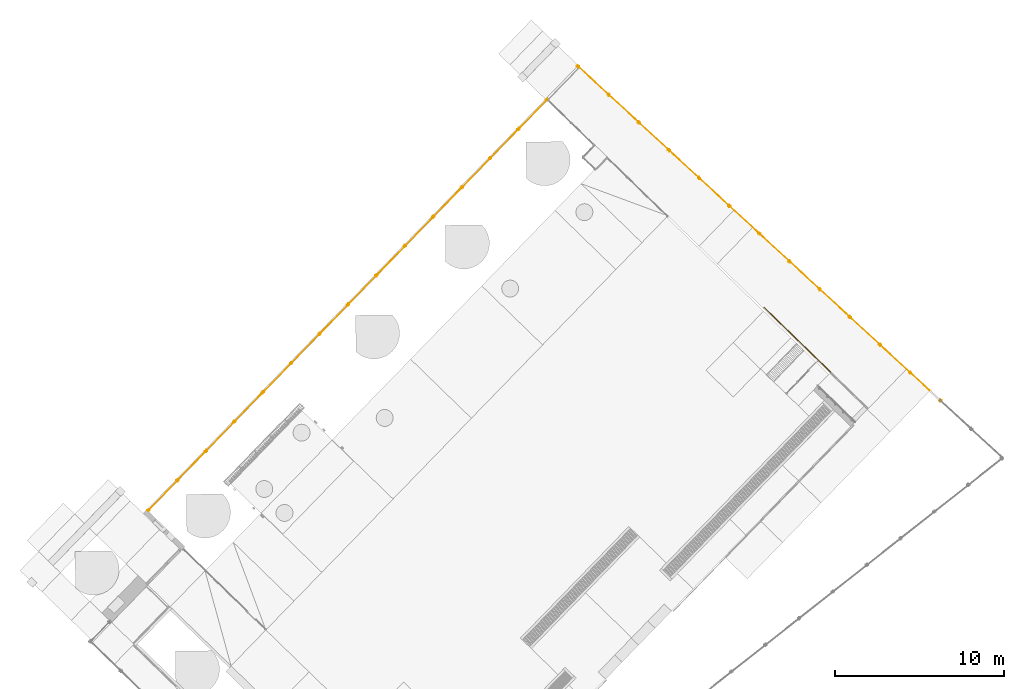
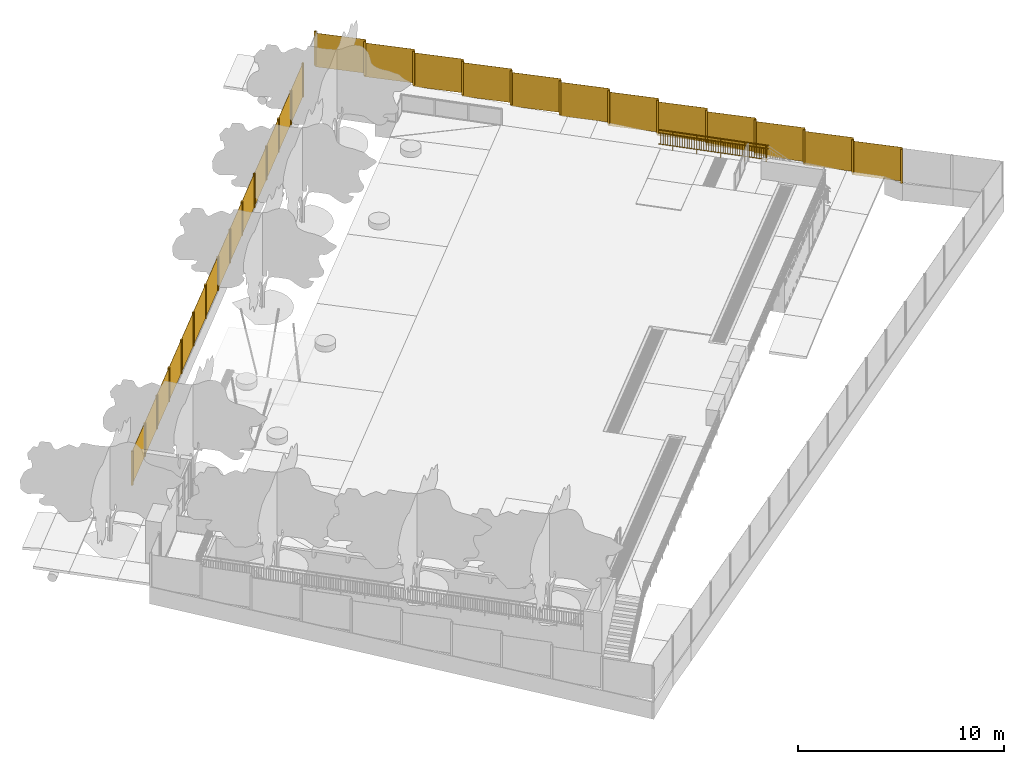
# One storey, part 28 of 37: 3 railings.
"""IFC2X3 building model written with IfcOpenShell, lengths in centimetres."""

from ifc_helpers import new_model, entity, si_unit, converted_unit, derived_unit, direction, frame, frame_2d, origin, origin_2d_with_axis, place, context, subcontext, project, spatial, rectangle, circle, extrude, material, material_list, element, save


model = new_model("IFC2X3")

# Units and contexts
model_context = context("Model", 3, precision=0.001, world=origin(), true_north=direction((0.717475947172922, 0.696583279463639)))
body_context = subcontext(model_context, "Body", "Model", "MODEL_VIEW")
ifc_project = project(units=[si_unit("LENGTHUNIT", "METRE", prefix="CENTI"), si_unit("AREAUNIT", "SQUARE_METRE"), si_unit("VOLUMEUNIT", "CUBIC_METRE"), converted_unit("PLANEANGLEUNIT", "DEGREE", entity("IfcRatioMeasure", 0.0174532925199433), si_unit("PLANEANGLEUNIT", "RADIAN"), dimensions=[0, 0, 0, 0, 0, 0, 0]), si_unit("MASSUNIT", "GRAM", prefix="KILO"), derived_unit("MASSDENSITYUNIT", [(si_unit("MASSUNIT", "GRAM", prefix="KILO"), 1), (si_unit("LENGTHUNIT", "METRE"), -3)]), si_unit("TIMEUNIT", "SECOND"), si_unit("FREQUENCYUNIT", "HERTZ"), si_unit("THERMODYNAMICTEMPERATUREUNIT", "DEGREE_CELSIUS"), derived_unit("THERMALTRANSMITTANCEUNIT", [(si_unit("MASSUNIT", "GRAM", prefix="KILO"), 1), (si_unit("THERMODYNAMICTEMPERATUREUNIT", "KELVIN"), -1), (si_unit("TIMEUNIT", "SECOND"), -3)]), derived_unit("VOLUMETRICFLOWRATEUNIT", [(si_unit("LENGTHUNIT", "METRE"), 3), (si_unit("TIMEUNIT", "SECOND"), -1)]), si_unit("ELECTRICCURRENTUNIT", "AMPERE"), si_unit("ELECTRICVOLTAGEUNIT", "VOLT"), si_unit("POWERUNIT", "WATT"), si_unit("FORCEUNIT", "NEWTON", prefix="KILO"), si_unit("ILLUMINANCEUNIT", "LUX"), si_unit("LUMINOUSFLUXUNIT", "LUMEN"), si_unit("LUMINOUSINTENSITYUNIT", "CANDELA"), derived_unit("USERDEFINED", [(si_unit("MASSUNIT", "GRAM", prefix="KILO"), -1), (si_unit("LENGTHUNIT", "METRE"), -2), (si_unit("TIMEUNIT", "SECOND"), 3), (si_unit("LUMINOUSFLUXUNIT", "LUMEN"), 1)]), derived_unit("LINEARVELOCITYUNIT", [(si_unit("LENGTHUNIT", "METRE"), 1), (si_unit("TIMEUNIT", "SECOND"), -1)]), si_unit("PRESSUREUNIT", "PASCAL"), derived_unit("USERDEFINED", [(si_unit("LENGTHUNIT", "METRE"), -2), (si_unit("MASSUNIT", "GRAM", prefix="KILO"), 1), (si_unit("TIMEUNIT", "SECOND"), -2)])], contexts=[model_context])

# Site, building, storey
site_placement = place(None, frame((0.0, 0.0, 0.0), z_axis=(0.0, 0.0, 1.0), x_axis=(0.696583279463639, 0.717475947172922, 0.0)))
site = spatial("IfcSite", under=ifc_project, at=site_placement, Name="Surface", CompositionType="ELEMENT")
building_placement = place(site_placement, origin())
building = spatial("IfcBuilding", under=site, at=building_placement, CompositionType="ELEMENT")
storey_placement = place(building_placement, origin())
storey = spatial("IfcBuildingStorey", under=building, at=storey_placement, Name="Nivel 0.00", CompositionType="ELEMENT", Elevation=0.0)

# Railings
ifc_material_1 = material(Name="Aluminum")
railing_1_placement = place(storey_placement, origin())
element("IfcRailing", 1, at=railing_1_placement, inside=storey, material=ifc_material_1, Name="Railing:BARANDA_RAMPA_1000mm", ObjectType="Railing:BARANDA_RAMPA_1000mm", PredefinedType="NOTDEFINED", context=body_context, shape_type="SweptSolid", body=[
    extrude(rectangle(XDim=1.20000000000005, YDim=4.99999999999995, at=frame_2d((5.41233724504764e-14, 0.0), x_axis=(1.0, 0.0))), frame((1808.05256330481, -716.89746349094, 167.0), z_axis=(0.0, 0.0, 1.0), x_axis=(0.0, 1.0, 0.0)), (0.0, 0.0, 1.0), 63.8),
    extrude(rectangle(XDim=1.20000000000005, YDim=4.99999999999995, at=frame_2d((-5.41233724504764e-14, 0.0), x_axis=(1.0, 0.0))), frame((1808.05256330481, -728.89746349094, 167.0), z_axis=(0.0, 0.0, 1.0), x_axis=(0.0, 1.0, 0.0)), (0.0, 0.0, 1.0), 63.8),
    extrude(rectangle(XDim=1.20000000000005, YDim=4.99999999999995, at=frame_2d((5.41233724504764e-14, 0.0), x_axis=(1.0, 0.0))), frame((1808.05256330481, -740.89746349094, 167.0), z_axis=(0.0, 0.0, 1.0), x_axis=(0.0, 1.0, 0.0)), (0.0, 0.0, 1.0), 63.8),
    extrude(rectangle(XDim=1.20000000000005, YDim=4.99999999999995, at=frame_2d((-5.41233724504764e-14, 0.0), x_axis=(1.0, 0.0))), frame((1808.05256330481, -752.89746349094, 167.0), z_axis=(0.0, 0.0, 1.0), x_axis=(0.0, 1.0, 0.0)), (0.0, 0.0, 1.0), 63.8),
    extrude(rectangle(XDim=1.20000000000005, YDim=4.99999999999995, at=frame_2d((-5.41233724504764e-14, 0.0), x_axis=(1.0, 0.0))), frame((1808.05256330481, -764.89746349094, 167.0), z_axis=(0.0, 0.0, 1.0), x_axis=(0.0, 1.0, 0.0)), (0.0, 0.0, 1.0), 63.8),
    extrude(rectangle(XDim=1.20000000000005, YDim=4.99999999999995, at=frame_2d((5.41233724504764e-14, 0.0), x_axis=(1.0, 0.0))), frame((1808.05256330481, -776.89746349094, 137.0), z_axis=(0.0, 0.0, 1.0), x_axis=(0.0, 1.0, 0.0)), (0.0, 0.0, 1.0), 110.0),
    extrude(rectangle(XDim=1.20000000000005, YDim=4.99999999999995, at=frame_2d((-5.41233724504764e-14, 0.0), x_axis=(1.0, 0.0))), frame((1808.05256330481, -788.89746349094, 167.0), z_axis=(0.0, 0.0, 1.0), x_axis=(0.0, 1.0, 0.0)), (0.0, 0.0, 1.0), 63.8),
    extrude(rectangle(XDim=1.20000000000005, YDim=4.99999999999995, at=frame_2d((-5.41233724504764e-14, 0.0), x_axis=(1.0, 0.0))), frame((1808.05256330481, -800.89746349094, 167.0), z_axis=(0.0, 0.0, 1.0), x_axis=(0.0, 1.0, 0.0)), (0.0, 0.0, 1.0), 63.8),
    extrude(rectangle(XDim=1.20000000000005, YDim=4.99999999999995, at=frame_2d((5.41233724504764e-14, 0.0), x_axis=(1.0, 0.0))), frame((1808.05256330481, -812.89746349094, 167.0), z_axis=(0.0, 0.0, 1.0), x_axis=(0.0, 1.0, 0.0)), (0.0, 0.0, 1.0), 63.8),
    extrude(rectangle(XDim=1.20000000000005, YDim=4.99999999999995, at=frame_2d((-5.41233724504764e-14, 0.0), x_axis=(1.0, 0.0))), frame((1808.05256330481, -824.89746349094, 167.0), z_axis=(0.0, 0.0, 1.0), x_axis=(0.0, 1.0, 0.0)), (0.0, 0.0, 1.0), 63.8),
    extrude(rectangle(XDim=1.20000000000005, YDim=4.99999999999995, at=frame_2d((-5.41233724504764e-14, 0.0), x_axis=(1.0, 0.0))), frame((1808.05256330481, -836.89746349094, 167.0), z_axis=(0.0, 0.0, 1.0), x_axis=(0.0, 1.0, 0.0)), (0.0, 0.0, 1.0), 63.8),
    extrude(rectangle(XDim=1.20000000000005, YDim=4.99999999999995, at=frame_2d((-5.41233724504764e-14, 0.0), x_axis=(1.0, 0.0))), frame((1808.05256330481, -848.89746349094, 167.0), z_axis=(0.0, 0.0, 1.0), x_axis=(0.0, 1.0, 0.0)), (0.0, 0.0, 1.0), 63.8),
    extrude(rectangle(XDim=1.20000000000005, YDim=4.99999999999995, at=frame_2d((5.41233724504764e-14, 0.0), x_axis=(1.0, 0.0))), frame((1808.05256330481, -860.89746349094, 167.0), z_axis=(0.0, 0.0, 1.0), x_axis=(0.0, 1.0, 0.0)), (0.0, 0.0, 1.0), 63.8),
    extrude(rectangle(XDim=1.20000000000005, YDim=4.99999999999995, at=frame_2d((5.41233724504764e-14, 0.0), x_axis=(1.0, 0.0))), frame((1808.05256330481, -872.89746349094, 167.0), z_axis=(0.0, 0.0, 1.0), x_axis=(0.0, 1.0, 0.0)), (0.0, 0.0, 1.0), 63.8),
    extrude(rectangle(XDim=1.20000000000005, YDim=4.99999999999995, at=frame_2d((-5.41233724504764e-14, 0.0), x_axis=(1.0, 0.0))), frame((1808.05256330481, -884.89746349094, 167.0), z_axis=(0.0, 0.0, 1.0), x_axis=(0.0, 1.0, 0.0)), (0.0, 0.0, 1.0), 63.8),
    extrude(rectangle(XDim=1.20000000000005, YDim=4.99999999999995, at=frame_2d((5.41233724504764e-14, 0.0), x_axis=(1.0, 0.0))), frame((1808.05256330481, -896.89746349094, 137.0), z_axis=(0.0, 0.0, 1.0), x_axis=(0.0, 1.0, 0.0)), (0.0, 0.0, 1.0), 110.0),
    extrude(rectangle(XDim=1.20000000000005, YDim=4.99999999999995, at=frame_2d((-5.41233724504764e-14, 0.0), x_axis=(1.0, 0.0))), frame((1808.05256330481, -908.89746349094, 167.0), z_axis=(0.0, 0.0, 1.0), x_axis=(0.0, 1.0, 0.0)), (0.0, 0.0, 1.0), 63.8),
    extrude(rectangle(XDim=1.20000000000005, YDim=4.99999999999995, at=frame_2d((-5.41233724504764e-14, 0.0), x_axis=(1.0, 0.0))), frame((1808.05256330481, -920.89746349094, 167.0), z_axis=(0.0, 0.0, 1.0), x_axis=(0.0, 1.0, 0.0)), (0.0, 0.0, 1.0), 63.8),
    extrude(rectangle(XDim=1.20000000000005, YDim=4.99999999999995, at=frame_2d((5.41233724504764e-14, 0.0), x_axis=(1.0, 0.0))), frame((1808.05256330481, -932.89746349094, 167.0), z_axis=(0.0, 0.0, 1.0), x_axis=(0.0, 1.0, 0.0)), (0.0, 0.0, 1.0), 63.8),
    extrude(rectangle(XDim=1.20000000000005, YDim=4.99999999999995, at=frame_2d((-5.41233724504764e-14, 0.0), x_axis=(1.0, 0.0))), frame((1808.05256330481, -944.89746349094, 167.0), z_axis=(0.0, 0.0, 1.0), x_axis=(0.0, 1.0, 0.0)), (0.0, 0.0, 1.0), 63.8),
    extrude(rectangle(XDim=1.20000000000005, YDim=4.99999999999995, at=frame_2d((5.41233724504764e-14, 0.0), x_axis=(1.0, 0.0))), frame((1808.05256330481, -956.89746349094, 167.0), z_axis=(0.0, 0.0, 1.0), x_axis=(0.0, 1.0, 0.0)), (0.0, 0.0, 1.0), 63.8),
    extrude(rectangle(XDim=1.20000000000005, YDim=4.99999999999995, at=frame_2d((-5.41233724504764e-14, 0.0), x_axis=(1.0, 0.0))), frame((1808.05256330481, -968.89746349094, 167.0), z_axis=(0.0, 0.0, 1.0), x_axis=(0.0, 1.0, 0.0)), (0.0, 0.0, 1.0), 63.8),
    extrude(rectangle(XDim=1.19999999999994, YDim=4.99999999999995, at=frame_2d((-1.08302256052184e-13, 0.0), x_axis=(1.0, 0.0))), frame((1808.05256330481, -980.89746349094, 167.0), z_axis=(0.0, 0.0, 1.0), x_axis=(0.0, 1.0, 0.0)), (0.0, 0.0, 1.0), 63.8),
    extrude(rectangle(XDim=1.19999999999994, YDim=4.99999999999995, at=frame_2d((1.08302256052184e-13, 0.0), x_axis=(1.0, 0.0))), frame((1808.05256330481, -992.89746349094, 167.0), z_axis=(0.0, 0.0, 1.0), x_axis=(0.0, 1.0, 0.0)), (0.0, 0.0, 1.0), 63.8),
    extrude(rectangle(XDim=1.19999999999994, YDim=4.99999999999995, at=frame_2d((-1.08302256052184e-13, 0.0), x_axis=(1.0, 0.0))), frame((1808.05256330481, -1004.89746349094, 167.0), z_axis=(0.0, 0.0, 1.0), x_axis=(0.0, 1.0, 0.0)), (0.0, 0.0, 1.0), 63.8),
    extrude(rectangle(XDim=1.19999999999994, YDim=4.99999999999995, at=frame_2d((-1.08302256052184e-13, 0.0), x_axis=(1.0, 0.0))), frame((1808.05256330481, -1016.89746349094, 137.0), z_axis=(0.0, 0.0, 1.0), x_axis=(0.0, 1.0, 0.0)), (0.0, 0.0, 1.0), 110.0),
    extrude(rectangle(XDim=1.19999999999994, YDim=4.99999999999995, at=frame_2d((-1.08302256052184e-13, 0.0), x_axis=(1.0, 0.0))), frame((1808.05256330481, -1028.89746349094, 167.0), z_axis=(0.0, 0.0, 1.0), x_axis=(0.0, 1.0, 0.0)), (0.0, 0.0, 1.0), 63.8),
    extrude(rectangle(XDim=1.19999999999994, YDim=4.99999999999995, at=frame_2d((1.08302256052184e-13, 0.0), x_axis=(1.0, 0.0))), frame((1808.05256330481, -1040.89746349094, 167.0), z_axis=(0.0, 0.0, 1.0), x_axis=(0.0, 1.0, 0.0)), (0.0, 0.0, 1.0), 63.8),
    extrude(rectangle(XDim=1.19999999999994, YDim=4.99999999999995, at=frame_2d((-1.08302256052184e-13, 0.0), x_axis=(1.0, 0.0))), frame((1808.05256330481, -1052.89746349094, 167.0), z_axis=(0.0, 0.0, 1.0), x_axis=(0.0, 1.0, 0.0)), (0.0, 0.0, 1.0), 63.8),
    extrude(rectangle(XDim=1.19999999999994, YDim=4.99999999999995, at=frame_2d((-1.08302256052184e-13, 0.0), x_axis=(1.0, 0.0))), frame((1808.05256330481, -1064.89746349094, 167.0), z_axis=(0.0, 0.0, 1.0), x_axis=(0.0, 1.0, 0.0)), (0.0, 0.0, 1.0), 63.8),
    extrude(rectangle(XDim=1.19999999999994, YDim=4.99999999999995, at=frame_2d((1.08302256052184e-13, 0.0), x_axis=(1.0, 0.0))), frame((1808.05256330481, -1076.89746349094, 167.0), z_axis=(0.0, 0.0, 1.0), x_axis=(0.0, 1.0, 0.0)), (0.0, 0.0, 1.0), 63.8),
    extrude(rectangle(XDim=1.19999999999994, YDim=4.99999999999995, at=frame_2d((1.08302256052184e-13, 0.0), x_axis=(1.0, 0.0))), frame((1808.05256330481, -1088.89746349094, 167.0), z_axis=(0.0, 0.0, 1.0), x_axis=(0.0, 1.0, 0.0)), (0.0, 0.0, 1.0), 63.8),
    extrude(rectangle(XDim=1.19999999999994, YDim=4.99999999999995, at=frame_2d((-1.08302256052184e-13, 0.0), x_axis=(1.0, 0.0))), frame((1808.05256330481, -1100.89746349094, 167.0), z_axis=(0.0, 0.0, 1.0), x_axis=(0.0, 1.0, 0.0)), (0.0, 0.0, 1.0), 63.8),
    extrude(rectangle(XDim=1.19999999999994, YDim=4.99999999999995, at=frame_2d((1.08302256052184e-13, 0.0), x_axis=(1.0, 0.0))), frame((1808.05256330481, -1112.89746349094, 167.0), z_axis=(0.0, 0.0, 1.0), x_axis=(0.0, 1.0, 0.0)), (0.0, 0.0, 1.0), 63.8),
    extrude(rectangle(XDim=1.19999999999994, YDim=4.99999999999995, at=frame_2d((-1.08302256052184e-13, 0.0), x_axis=(1.0, 0.0))), frame((1808.05256330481, -1124.89746349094, 167.0), z_axis=(0.0, 0.0, 1.0), x_axis=(0.0, 1.0, 0.0)), (0.0, 0.0, 1.0), 63.8),
    extrude(rectangle(XDim=1.19999999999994, YDim=4.99999999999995, at=frame_2d((-1.08302256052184e-13, 0.0), x_axis=(1.0, 0.0))), frame((1808.05256330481, -1136.89746349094, 137.0), z_axis=(0.0, 0.0, 1.0), x_axis=(0.0, 1.0, 0.0)), (0.0, 0.0, 1.0), 110.0),
    extrude(rectangle(XDim=1.19999999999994, YDim=4.99999999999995, at=frame_2d((1.08302256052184e-13, 0.0), x_axis=(1.0, 0.0))), frame((1808.05256330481, -1148.89746349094, 167.0), z_axis=(0.0, 0.0, 1.0), x_axis=(0.0, 1.0, 0.0)), (0.0, 0.0, 1.0), 63.8),
    extrude(rectangle(XDim=1.19999999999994, YDim=4.99999999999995, at=frame_2d((1.08302256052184e-13, 0.0), x_axis=(1.0, 0.0))), frame((1808.05256330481, -1160.89746349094, 167.0), z_axis=(0.0, 0.0, 1.0), x_axis=(0.0, 1.0, 0.0)), (0.0, 0.0, 1.0), 63.8),
    extrude(rectangle(XDim=1.19999999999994, YDim=4.99999999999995, at=frame_2d((-1.08302256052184e-13, 0.0), x_axis=(1.0, 0.0))), frame((1808.05256330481, -1172.89746349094, 167.0), z_axis=(0.0, 0.0, 1.0), x_axis=(0.0, 1.0, 0.0)), (0.0, 0.0, 1.0), 63.8),
    extrude(rectangle(XDim=1.19999999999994, YDim=4.99999999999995, at=frame_2d((-1.08302256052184e-13, 0.0), x_axis=(1.0, 0.0))), frame((1808.05256330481, -1184.89746349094, 167.0), z_axis=(0.0, 0.0, 1.0), x_axis=(0.0, 1.0, 0.0)), (0.0, 0.0, 1.0), 63.8),
    extrude(rectangle(XDim=1.19999999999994, YDim=4.99999999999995, at=frame_2d((1.08302256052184e-13, 0.0), x_axis=(1.0, 0.0))), frame((1808.05256330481, -1196.89746349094, 167.0), z_axis=(0.0, 0.0, 1.0), x_axis=(0.0, 1.0, 0.0)), (0.0, 0.0, 1.0), 63.8),
    extrude(rectangle(XDim=1.19999999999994, YDim=4.99999999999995, at=frame_2d((-1.08302256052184e-13, 0.0), x_axis=(1.0, 0.0))), frame((1808.05256330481, -1208.89746349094, 167.0), z_axis=(0.0, 0.0, 1.0), x_axis=(0.0, 1.0, 0.0)), (0.0, 0.0, 1.0), 63.8),
    extrude(rectangle(XDim=1.19999999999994, YDim=4.99999999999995, at=frame_2d((-1.08302256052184e-13, 0.0), x_axis=(1.0, 0.0))), frame((1808.05256330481, -1220.89746349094, 167.0), z_axis=(0.0, 0.0, 1.0), x_axis=(0.0, 1.0, 0.0)), (0.0, 0.0, 1.0), 63.8),
    extrude(rectangle(XDim=1.19999999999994, YDim=4.99999999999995, at=frame_2d((1.08302256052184e-13, 0.0), x_axis=(1.0, 0.0))), frame((1808.05256330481, -1232.89746349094, 167.0), z_axis=(0.0, 0.0, 1.0), x_axis=(0.0, 1.0, 0.0)), (0.0, 0.0, 1.0), 63.8),
    extrude(rectangle(XDim=1.19999999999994, YDim=4.99999999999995, at=frame_2d((-1.08302256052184e-13, 0.0), x_axis=(1.0, 0.0))), frame((1808.05256330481, -1244.89746349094, 167.0), z_axis=(0.0, 0.0, 1.0), x_axis=(0.0, 1.0, 0.0)), (0.0, 0.0, 1.0), 63.8),
    extrude(rectangle(XDim=4.99999999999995, YDim=4.99999999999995, at=frame_2d((1.08357767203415e-13, -1.08357767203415e-13), x_axis=(1.0, 0.0))), frame((1808.05256330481, -1244.39746349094, 152.0), z_axis=(0.0, 0.0, 1.0), x_axis=(0.0, 1.0, 0.0)), (0.0, 0.0, 1.0), 95.0),
    extrude(rectangle(XDim=551.430980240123, YDim=4.99999999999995, at=frame_2d((0.0, -1.08357767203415e-13), x_axis=(1.0, 0.0))), frame((1808.05256330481, -981.18197337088, 230.8), z_axis=(0.0, 0.0, 1.0), x_axis=(0.0, 1.0, 0.0)), (0.0, 0.0, 1.0), 1.2),
    extrude(rectangle(XDim=551.430980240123, YDim=4.99999999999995, at=frame_2d((0.0, -1.08357767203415e-13), x_axis=(1.0, 0.0))), frame((1808.05256330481, -981.18197337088, 165.8), z_axis=(0.0, 0.0, 1.0), x_axis=(0.0, 1.0, 0.0)), (0.0, 0.0, 1.0), 1.2),
    extrude(circle(Radius=2.5, at=origin_2d_with_axis()), frame((1808.55256330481, -1256.89746349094, 249.5), z_axis=(0.0, 1.0, 0.0), x_axis=(-1.0, 0.0, 0.0)), (0.0, 0.0, 1.0), 551.430980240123),
])
ifc_material_2 = material(Name="REJA_MALLA_ACMA")
ifc_material_list_1 = material_list([ifc_material_2, ifc_material_1])
railing_2_placement = place(storey_placement, origin())
element("IfcRailing", 2, at=railing_2_placement, inside=storey, material=ifc_material_list_1, Name="Railing:REJA_PERIMETRAL_2000mm", ObjectType="Railing:REJA_PERIMETRAL_2000mm", PredefinedType="NOTDEFINED", context=body_context, shape_type="SweptSolid", body=[
    extrude(rectangle(XDim=1.00000000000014, YDim=250.0, at=frame_2d((-2.19102513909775e-13, -9.2370555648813e-14), x_axis=(1.0, 0.0))), frame((2067.42721032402, 947.685571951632, 143.777574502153), z_axis=(0.0, 0.0, 1.0), x_axis=(0.999667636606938, 0.025780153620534, 0.0)), (0.0, 0.0, 1.0), 200.0),
    extrude(rectangle(XDim=10.0000000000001, YDim=9.99999999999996, at=frame_2d((-2.18047802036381e-13, -4.84057238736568e-14), x_axis=(1.0, 0.0))), frame((2070.55043305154, 826.577500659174, 133.36941613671), z_axis=(0.0, 0.0, 1.0), x_axis=(0.999667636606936, 0.0257801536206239, 0.0)), (0.0, 0.0, 1.0), 200.0),
    extrude(rectangle(XDim=1.00000000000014, YDim=250.0, at=frame_2d((-2.15050199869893e-13, 4.9737991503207e-14), x_axis=(1.0, 0.0))), frame((2073.67365577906, 705.469429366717, 122.961257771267), z_axis=(0.0, 0.0, 1.0), x_axis=(0.999667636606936, 0.0257801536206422, 0.0)), (0.0, 0.0, 1.0), 200.0),
    extrude(rectangle(XDim=10.0000000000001, YDim=9.99999999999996, at=frame_2d((-2.18047802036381e-13, -4.84057238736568e-14), x_axis=(1.0, 0.0))), frame((2076.79687850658, 584.36135807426, 112.553099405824), z_axis=(0.0, 0.0, 1.0), x_axis=(0.999667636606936, 0.0257801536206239, 0.0)), (0.0, 0.0, 1.0), 200.0),
    extrude(rectangle(XDim=1.00000000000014, YDim=250.0, at=frame_2d((-2.16326956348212e-13, 0.0), x_axis=(1.0, 0.0))), frame((2079.9201012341, 463.253286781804, 102.144941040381), z_axis=(0.0, 0.0, 1.0), x_axis=(0.999667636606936, 0.0257801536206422, 0.0)), (0.0, 0.0, 1.0), 200.0),
    extrude(rectangle(XDim=10.0000000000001, YDim=9.99999999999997, at=frame_2d((-2.1627144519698e-13, 3.24185123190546e-14), x_axis=(1.0, 0.0))), frame((2083.04332396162, 342.145215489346, 91.7367826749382), z_axis=(0.0, 0.0, 1.0), x_axis=(0.999667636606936, 0.0257801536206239, 0.0)), (0.0, 0.0, 1.0), 200.0),
    extrude(rectangle(XDim=1.00000000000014, YDim=250.0, at=frame_2d((2.16326956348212e-13, 0.0), x_axis=(1.0, 0.0))), frame((2086.16654668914, 221.03714419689, 81.3286243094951), z_axis=(0.0, 0.0, 1.0), x_axis=(0.999667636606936, 0.0257801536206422, 0.0)), (0.0, 0.0, 1.0), 200.0),
    extrude(rectangle(XDim=10.0000000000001, YDim=10.0, at=frame_2d((-2.17159623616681e-13, -7.99360577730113e-15), x_axis=(1.0, 0.0))), frame((2089.28976941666, 99.9290729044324, 70.9204659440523), z_axis=(0.0, 0.0, 1.0), x_axis=(0.999667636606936, 0.0257801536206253, 0.0)), (0.0, 0.0, 1.0), 200.0),
    extrude(rectangle(XDim=1.00000000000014, YDim=250.0, at=frame_2d((2.16993090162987e-13, 0.0), x_axis=(1.0, 0.0))), frame((2092.41299214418, -21.1789983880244, 60.5123075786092), z_axis=(0.0, 0.0, 1.0), x_axis=(0.999667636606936, 0.0257801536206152, 0.0)), (0.0, 0.0, 1.0), 200.0),
    extrude(rectangle(XDim=10.0000000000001, YDim=10.0, at=frame_2d((-2.1627144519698e-13, 5.77315972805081e-15), x_axis=(1.0, 0.0))), frame((2095.5362148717, -142.287069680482, 50.1041492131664), z_axis=(0.0, 0.0, 1.0), x_axis=(0.999667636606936, 0.0257801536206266, 0.0)), (0.0, 0.0, 1.0), 200.0),
    extrude(rectangle(XDim=1.00000000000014, YDim=250.0, at=frame_2d((2.15716333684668e-13, -2.1316282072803e-14), x_axis=(1.0, 0.0))), frame((2098.65943759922, -263.395140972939, 39.6959908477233), z_axis=(0.0, 0.0, 1.0), x_axis=(0.999667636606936, 0.0257801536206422, 0.0)), (0.0, 0.0, 1.0), 200.0),
    extrude(rectangle(XDim=10.0000000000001, YDim=9.99999999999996, at=frame_2d((-2.17159623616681e-13, -2.1316282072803e-14), x_axis=(1.0, 0.0))), frame((2101.78266032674, -384.503212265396, 29.2878324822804), z_axis=(0.0, 0.0, 1.0), x_axis=(0.999667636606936, 0.0257801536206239, 0.0)), (0.0, 0.0, 1.0), 200.0),
    extrude(rectangle(XDim=1.00000000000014, YDim=250.0, at=frame_2d((2.15050199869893e-13, -4.9737991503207e-14), x_axis=(1.0, 0.0))), frame((2104.90588305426, -505.611283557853, 18.8796741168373), z_axis=(0.0, 0.0, 1.0), x_axis=(0.999667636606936, 0.0257801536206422, 0.0)), (0.0, 0.0, 1.0), 200.0),
    extrude(rectangle(XDim=10.0000000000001, YDim=9.99999999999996, at=frame_2d((-2.18047802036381e-13, -4.84057238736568e-14), x_axis=(1.0, 0.0))), frame((2108.02910578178, -626.71935485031, 8.47151575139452), z_axis=(0.0, 0.0, 1.0), x_axis=(0.999667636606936, 0.0257801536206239, 0.0)), (0.0, 0.0, 1.0), 200.0),
    extrude(rectangle(XDim=1.00000000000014, YDim=250.0, at=frame_2d((2.15050199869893e-13, -4.9737991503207e-14), x_axis=(1.0, 0.0))), frame((2111.1523285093, -747.827426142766, -1.9366426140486), z_axis=(0.0, 0.0, 1.0), x_axis=(0.999667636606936, 0.0257801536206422, 0.0)), (0.0, 0.0, 1.0), 200.0),
    extrude(rectangle(XDim=10.0000000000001, YDim=9.99999999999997, at=frame_2d((-2.1538326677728e-13, 5.95079541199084e-14), x_axis=(1.0, 0.0))), frame((2114.27555123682, -868.935497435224, -12.3448009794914), z_axis=(0.0, 0.0, 1.0), x_axis=(0.999667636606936, 0.0257801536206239, 0.0)), (0.0, 0.0, 1.0), 200.0),
    extrude(rectangle(XDim=1.00000000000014, YDim=250.0, at=frame_2d((2.18047802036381e-13, 4.9737991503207e-14), x_axis=(1.0, 0.0))), frame((2117.39877396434, -990.04356872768, -22.7529593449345), z_axis=(0.0, 0.0, 1.0), x_axis=(0.999667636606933, 0.0257801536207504, 0.0)), (0.0, 0.0, 1.0), 200.0),
    extrude(rectangle(XDim=10.0000000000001, YDim=10.0000000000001, at=frame_2d((2.16715534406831e-13, -5.77315972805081e-15), x_axis=(1.0, 0.0))), frame((2120.52199669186, -1111.15164002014, -33.1611177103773), z_axis=(0.0, 0.0, 1.0), x_axis=(0.999667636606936, 0.0257801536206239, 0.0)), (0.0, 0.0, 1.0), 200.0),
    extrude(rectangle(XDim=1.00000000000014, YDim=250.0, at=frame_2d((-2.16549000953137e-13, 0.0), x_axis=(1.0, 0.0))), frame((2123.64521941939, -1232.25971131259, -43.5692760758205), z_axis=(0.0, 0.0, 1.0), x_axis=(0.999667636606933, 0.0257801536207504, 0.0)), (0.0, 0.0, 1.0), 200.0),
    extrude(rectangle(XDim=10.0000000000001, YDim=10.0000000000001, at=frame_2d((2.16715534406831e-13, -5.77315972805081e-15), x_axis=(1.0, 0.0))), frame((2126.76844214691, -1353.36778260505, -53.9774344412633), z_axis=(0.0, 0.0, 1.0), x_axis=(0.999667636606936, 0.0257801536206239, 0.0)), (0.0, 0.0, 1.0), 200.0),
    extrude(rectangle(XDim=1.00000000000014, YDim=250.0, at=frame_2d((-2.16549000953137e-13, 0.0), x_axis=(1.0, 0.0))), frame((2129.89166487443, -1474.47585389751, -64.3855928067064), z_axis=(0.0, 0.0, 1.0), x_axis=(0.999667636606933, 0.0257801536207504, 0.0)), (0.0, 0.0, 1.0), 200.0),
    extrude(rectangle(XDim=10.0000000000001, YDim=10.0000000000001, at=frame_2d((2.16715534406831e-13, -5.77315972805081e-15), x_axis=(1.0, 0.0))), frame((2133.01488760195, -1595.58392518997, -74.7937511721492), z_axis=(0.0, 0.0, 1.0), x_axis=(0.999667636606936, 0.0257801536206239, 0.0)), (0.0, 0.0, 1.0), 200.0),
    extrude(rectangle(XDim=1.00000000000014, YDim=250.0, at=frame_2d((-2.16549000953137e-13, 0.0), x_axis=(1.0, 0.0))), frame((2136.13811032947, -1716.69199648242, -85.2019095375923), z_axis=(0.0, 0.0, 1.0), x_axis=(0.999667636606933, 0.0257801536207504, 0.0)), (0.0, 0.0, 1.0), 200.0),
    extrude(rectangle(XDim=10.0000000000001, YDim=10.0000000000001, at=frame_2d((-2.16715534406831e-13, 5.77315972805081e-15), x_axis=(1.0, 0.0))), frame((2064.1750868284, 1073.79198142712, 154.615295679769), z_axis=(0.0, 0.0, 1.0), x_axis=(0.999667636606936, 0.0257801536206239, 0.0)), (0.0, 0.0, 1.0), 200.0),
    extrude(rectangle(XDim=10.0000000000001, YDim=10.0000000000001, at=frame_2d((2.16715534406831e-13, -5.77315972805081e-15), x_axis=(1.0, 0.0))), frame((2139.26133305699, -1837.80006777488, -95.6100679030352), z_axis=(0.0, 0.0, 1.0), x_axis=(0.999667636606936, 0.0257801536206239, 0.0)), (0.0, 0.0, 1.0), 200.0),
])
ifc_material_list_2 = material_list([ifc_material_2, ifc_material_1])
railing_3_placement = place(storey_placement, origin())
element("IfcRailing", 3, at=railing_3_placement, inside=storey, material=ifc_material_list_2, Name="Railing:REJA_PERIMETRAL_2000mm", ObjectType="Railing:REJA_PERIMETRAL_2000mm", PredefinedType="NOTDEFINED", context=body_context, shape_type="SweptSolid", body=[
    extrude(rectangle(XDim=0.999999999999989, YDim=250.0, at=frame_2d((1.08246744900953e-13, 0.0), x_axis=(1.0, 0.0))), frame((-1459.85360386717, 1067.84129304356, 150.0), z_axis=(0.0, 0.0, 1.0), x_axis=(0.0, 1.0, 0.0)), (0.0, 0.0, 1.0), 200.0),
    extrude(rectangle(XDim=9.99999999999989, YDim=10.0000000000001, at=frame_2d((0.0, -1.08357767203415e-13), x_axis=(1.0, 0.0))), frame((-1339.28022200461, 1067.84129304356, 150.0), z_axis=(0.0, 0.0, 1.0), x_axis=(0.0, 1.0, 0.0)), (0.0, 0.0, 1.0), 200.0),
    extrude(rectangle(XDim=0.999999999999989, YDim=250.0, at=frame_2d((1.08246744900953e-13, 0.0), x_axis=(1.0, 0.0))), frame((-1218.70684014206, 1067.84129304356, 150.0), z_axis=(0.0, 0.0, 1.0), x_axis=(0.0, 1.0, 0.0)), (0.0, 0.0, 1.0), 200.0),
    extrude(rectangle(XDim=10.0000000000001, YDim=10.0000000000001, at=frame_2d((-1.08357767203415e-13, 1.08357767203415e-13), x_axis=(1.0, 0.0))), frame((-1098.1334582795, 1067.84129304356, 150.0), z_axis=(0.0, 0.0, 1.0), x_axis=(0.0, 1.0, 0.0)), (0.0, 0.0, 1.0), 200.0),
    extrude(rectangle(XDim=0.999999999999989, YDim=250.0, at=frame_2d((-1.08246744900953e-13, 0.0), x_axis=(1.0, 0.0))), frame((-977.56007641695, 1067.84129304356, 150.0), z_axis=(0.0, 0.0, 1.0), x_axis=(0.0, 1.0, 0.0)), (0.0, 0.0, 1.0), 200.0),
    extrude(rectangle(XDim=10.0000000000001, YDim=10.0, at=frame_2d((-1.08357767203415e-13, -5.41788836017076e-14), x_axis=(1.0, 0.0))), frame((-856.986694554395, 1067.84129304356, 150.0), z_axis=(0.0, 0.0, 1.0), x_axis=(0.0, 1.0, 0.0)), (0.0, 0.0, 1.0), 200.0),
    extrude(rectangle(XDim=0.999999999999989, YDim=250.0, at=frame_2d((-1.08246744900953e-13, 4.9737991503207e-14), x_axis=(1.0, 0.0))), frame((-736.41331269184, 1067.84129304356, 150.0), z_axis=(0.0, 0.0, 1.0), x_axis=(0.0, 1.0, 0.0)), (0.0, 0.0, 1.0), 200.0),
    extrude(rectangle(XDim=10.0000000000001, YDim=10.0, at=frame_2d((-1.08357767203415e-13, -5.41788836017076e-14), x_axis=(1.0, 0.0))), frame((-615.839930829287, 1067.84129304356, 150.0), z_axis=(0.0, 0.0, 1.0), x_axis=(0.0, 1.0, 0.0)), (0.0, 0.0, 1.0), 200.0),
    extrude(rectangle(XDim=0.999999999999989, YDim=250.0, at=frame_2d((1.08246744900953e-13, -2.1316282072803e-14), x_axis=(1.0, 0.0))), frame((-495.266548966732, 1067.84129304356, 150.0), z_axis=(0.0, 0.0, 1.0), x_axis=(0.0, 1.0, 0.0)), (0.0, 0.0, 1.0), 200.0),
    extrude(rectangle(XDim=9.99999999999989, YDim=10.0, at=frame_2d((0.0, 2.70894418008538e-14), x_axis=(1.0, 0.0))), frame((-374.693167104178, 1067.84129304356, 150.0), z_axis=(0.0, 0.0, 1.0), x_axis=(0.0, 1.0, 0.0)), (0.0, 0.0, 1.0), 200.0),
    extrude(rectangle(XDim=0.999999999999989, YDim=250.0, at=frame_2d((1.08246744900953e-13, -2.1316282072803e-14), x_axis=(1.0, 0.0))), frame((-254.119785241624, 1067.84129304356, 150.0), z_axis=(0.0, 0.0, 1.0), x_axis=(0.0, 1.0, 0.0)), (0.0, 0.0, 1.0), 200.0),
    extrude(rectangle(XDim=9.99999999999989, YDim=10.0, at=frame_2d((0.0, -1.33226762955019e-14), x_axis=(1.0, 0.0))), frame((-133.546403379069, 1067.84129304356, 150.0), z_axis=(0.0, 0.0, 1.0), x_axis=(0.0, 1.0, 0.0)), (0.0, 0.0, 1.0), 200.0),
    extrude(rectangle(XDim=0.999999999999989, YDim=250.0, at=frame_2d((1.08246744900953e-13, 0.0), x_axis=(1.0, 0.0))), frame((-12.9730215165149, 1067.84129304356, 150.0), z_axis=(0.0, 0.0, 1.0), x_axis=(0.0, 1.0, 0.0)), (0.0, 0.0, 1.0), 200.0),
    extrude(rectangle(XDim=9.99999999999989, YDim=10.0, at=origin_2d_with_axis()), frame((107.60036034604, 1067.84129304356, 150.0), z_axis=(0.0, 0.0, 1.0), x_axis=(0.0, 1.0, 0.0)), (0.0, 0.0, 1.0), 200.0),
    extrude(rectangle(XDim=0.999999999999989, YDim=250.0, at=frame_2d((-1.08246744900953e-13, 7.105427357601e-15), x_axis=(1.0, 0.0))), frame((228.173742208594, 1067.84129304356, 150.0), z_axis=(0.0, 0.0, 1.0), x_axis=(0.0, 1.0, 0.0)), (0.0, 0.0, 1.0), 200.0),
    extrude(rectangle(XDim=10.0000000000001, YDim=10.0, at=frame_2d((-1.08357767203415e-13, 2.70894418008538e-14), x_axis=(1.0, 0.0))), frame((348.747124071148, 1067.84129304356, 150.0), z_axis=(0.0, 0.0, 1.0), x_axis=(0.0, 1.0, 0.0)), (0.0, 0.0, 1.0), 200.0),
    extrude(rectangle(XDim=0.999999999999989, YDim=250.0, at=frame_2d((-1.08246744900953e-13, -4.9737991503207e-14), x_axis=(1.0, 0.0))), frame((469.320505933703, 1067.84129304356, 150.0), z_axis=(0.0, 0.0, 1.0), x_axis=(0.0, 1.0, 0.0)), (0.0, 0.0, 1.0), 200.0),
    extrude(rectangle(XDim=10.0000000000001, YDim=10.0, at=frame_2d((-1.08357767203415e-13, -5.41788836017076e-14), x_axis=(1.0, 0.0))), frame((589.893887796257, 1067.84129304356, 150.0), z_axis=(0.0, 0.0, 1.0), x_axis=(0.0, 1.0, 0.0)), (0.0, 0.0, 1.0), 200.0),
    extrude(rectangle(XDim=0.999999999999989, YDim=250.0, at=frame_2d((-1.08246744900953e-13, 4.9737991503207e-14), x_axis=(1.0, 0.0))), frame((710.467269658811, 1067.84129304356, 150.0), z_axis=(0.0, 0.0, 1.0), x_axis=(0.0, 1.0, 0.0)), (0.0, 0.0, 1.0), 200.0),
    extrude(rectangle(XDim=9.99999999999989, YDim=10.0, at=frame_2d((0.0, -5.41788836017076e-14), x_axis=(1.0, 0.0))), frame((831.040651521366, 1067.84129304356, 150.0), z_axis=(0.0, 0.0, 1.0), x_axis=(0.0, 1.0, 0.0)), (0.0, 0.0, 1.0), 200.0),
    extrude(rectangle(XDim=0.999999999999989, YDim=250.0, at=frame_2d((1.08246744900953e-13, 4.9737991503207e-14), x_axis=(1.0, 0.0))), frame((951.61403338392, 1067.84129304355, 150.0), z_axis=(0.0, 0.0, 1.0), x_axis=(0.0, 1.0, 0.0)), (0.0, 0.0, 1.0), 200.0),
    extrude(rectangle(XDim=9.99999999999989, YDim=10.0000000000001, at=frame_2d((0.0, 1.08357767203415e-13), x_axis=(1.0, 0.0))), frame((1072.18741524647, 1067.84129304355, 150.0), z_axis=(0.0, 0.0, 1.0), x_axis=(0.0, 1.0, 0.0)), (0.0, 0.0, 1.0), 200.0),
    extrude(rectangle(XDim=0.999999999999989, YDim=250.0, at=frame_2d((1.08246744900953e-13, 0.0), x_axis=(1.0, 0.0))), frame((1192.76079710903, 1067.84129304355, 150.0), z_axis=(0.0, 0.0, 1.0), x_axis=(0.0, 1.0, 0.0)), (0.0, 0.0, 1.0), 200.0),
    extrude(rectangle(XDim=9.99999999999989, YDim=10.0000000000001, at=frame_2d((0.0, -1.08357767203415e-13), x_axis=(1.0, 0.0))), frame((1313.33417897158, 1067.84129304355, 150.0), z_axis=(0.0, 0.0, 1.0), x_axis=(0.0, 1.0, 0.0)), (0.0, 0.0, 1.0), 200.0),
    extrude(rectangle(XDim=0.999999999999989, YDim=250.0, at=frame_2d((1.08246744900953e-13, 0.0), x_axis=(1.0, 0.0))), frame((1433.90756083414, 1067.84129304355, 150.0), z_axis=(0.0, 0.0, 1.0), x_axis=(0.0, 1.0, 0.0)), (0.0, 0.0, 1.0), 200.0),
    extrude(rectangle(XDim=10.0000000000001, YDim=10.0000000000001, at=frame_2d((-1.08357767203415e-13, -1.08357767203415e-13), x_axis=(1.0, 0.0))), frame((1554.48094269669, 1067.84129304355, 150.0), z_axis=(0.0, 0.0, 1.0), x_axis=(0.0, 1.0, 0.0)), (0.0, 0.0, 1.0), 200.0),
    extrude(rectangle(XDim=0.999999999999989, YDim=250.0, at=frame_2d((-1.08246744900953e-13, 0.0), x_axis=(1.0, 0.0))), frame((1675.05432455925, 1067.84129304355, 150.0), z_axis=(0.0, 0.0, 1.0), x_axis=(0.0, 1.0, 0.0)), (0.0, 0.0, 1.0), 200.0),
    extrude(rectangle(XDim=9.99999999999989, YDim=10.0000000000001, at=frame_2d((0.0, -1.08357767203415e-13), x_axis=(1.0, 0.0))), frame((-1585.42698572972, 1067.84129304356, 150.0), z_axis=(0.0, 0.0, 1.0), x_axis=(0.0, 1.0, 0.0)), (0.0, 0.0, 1.0), 200.0),
    extrude(rectangle(XDim=10.0000000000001, YDim=10.0000000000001, at=frame_2d((-1.08357767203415e-13, 1.08357767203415e-13), x_axis=(1.0, 0.0))), frame((1795.6277064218, 1067.84129304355, 150.0), z_axis=(0.0, 0.0, 1.0), x_axis=(0.0, 1.0, 0.0)), (0.0, 0.0, 1.0), 200.0),
])

save(model, "model.ifc")
